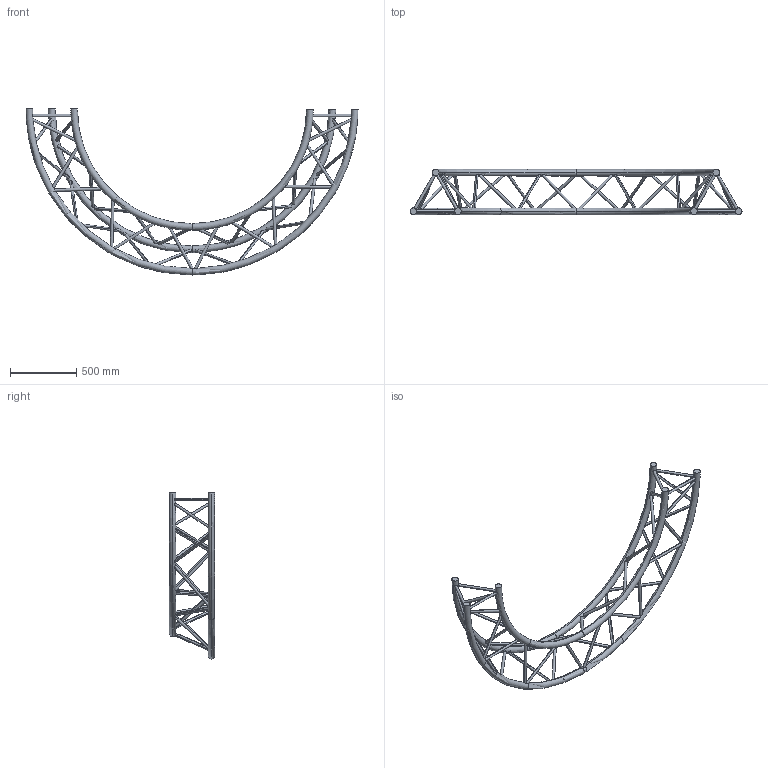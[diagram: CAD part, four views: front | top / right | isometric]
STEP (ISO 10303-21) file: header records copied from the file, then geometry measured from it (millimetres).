
FILE_DESCRIPTION (( 'STEP AP203' ), '1' );
FILE_NAME ('SXC39250PH.STEP', '2009-10-21T11:24:19', ( 'CEDIA' ), ( 'CEDIA INDUSTRIE' ), 'SwSTEP 2.0', 'SolidWorks 2009', '' );
FILE_SCHEMA (( 'CONFIG_CONTROL_DESIGN' ));
Length unit declared in the file: millimetre
Products named in the file (1): SXC39250PH
Bounding box: 2500 x 341.85 x 1250 mm (x, y, z)
Volume: 24147034.4 mm3; surface area: 2465602.4 mm2
Topology: 1 solids, 1 shells, 102 faces, 317 edges, 191 vertices
Faces by surface type: cylinder 84, torus 12, plane 6
Entity records: 11546 total; most frequent: CARTESIAN_POINT 8836, ORIENTED_EDGE 634, DIRECTION 408, EDGE_CURVE 317, VERTEX_POINT 191, B_SPLINE_CURVE_WITH_KNOTS 174, AXIS2_PLACEMENT_3D 162, EDGE_LOOP 156
